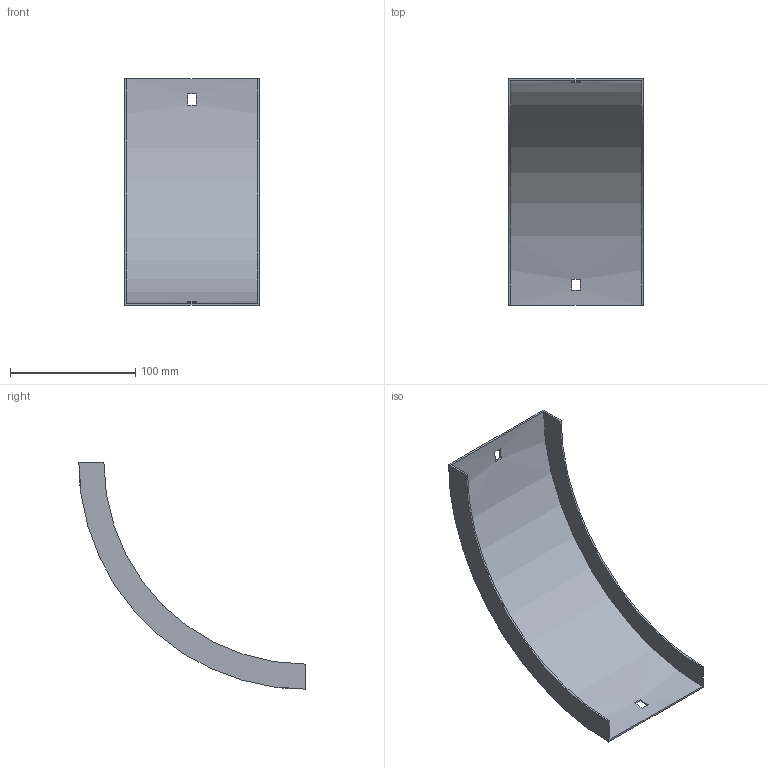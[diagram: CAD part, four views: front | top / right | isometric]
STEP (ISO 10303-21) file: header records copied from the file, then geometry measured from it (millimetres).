
FILE_DESCRIPTION (( 'STEP AP214' ), '1' );
FILE_NAME ('33N1C100.step', '2025-02-21T09:18:58', ( '' ), ( '' ), 'SwSTEP 2.0', 'SolidWorks 2023', '' );
FILE_SCHEMA (( 'AUTOMOTIVE_DESIGN' ));
Length unit declared in the file: millimetre
Products named in the file (1): 33N1C100
Bounding box: 107 x 180.5 x 180.5 mm (x, y, z)
Volume: 59939.7 mm3; surface area: 81204.9 mm2
Topology: 1 solids, 1 shells, 18 faces, 48 edges, 32 vertices
Faces by surface type: plane 14, cylinder 4
Entity records: 599 total; most frequent: DIRECTION 102, CARTESIAN_POINT 99, ORIENTED_EDGE 96, EDGE_CURVE 48, AXIS2_PLACEMENT_3D 35, VECTOR 32, LINE 32, VERTEX_POINT 32
